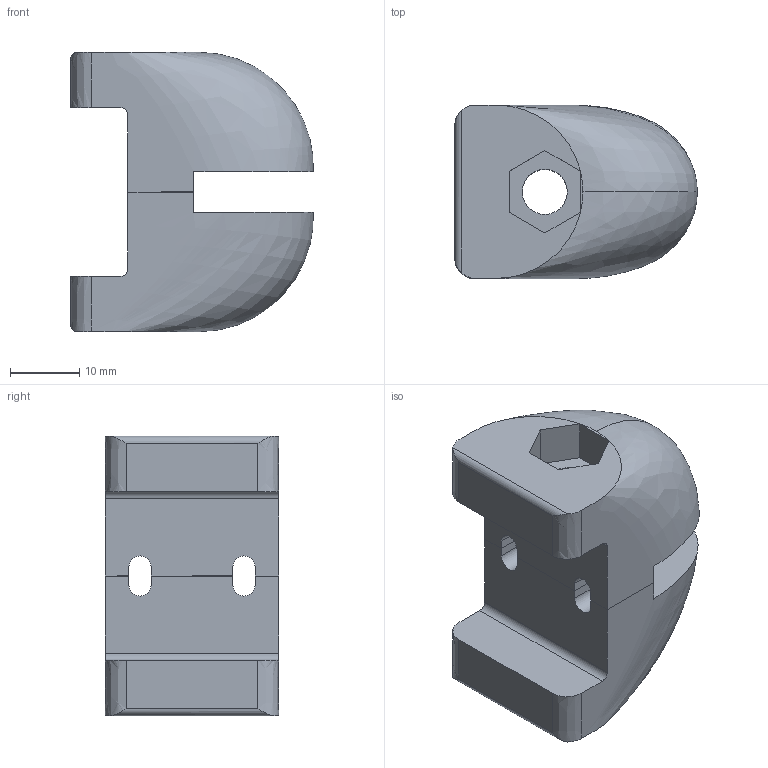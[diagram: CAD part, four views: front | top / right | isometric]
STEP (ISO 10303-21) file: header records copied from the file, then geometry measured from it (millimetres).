
FILE_DESCRIPTION (( 'STEP AP214' ), '1' );
FILE_NAME ('L19133B-L19133B.step', '2024-12-03T16:24:12', ( '' ), ( '' ), 'SwSTEP 2.0', 'SolidWorks 2023', '' );
FILE_SCHEMA (( 'AUTOMOTIVE_DESIGN' ));
Length unit declared in the file: millimetre
Products named in the file (2): L19133B-L19133B; L19133B
Assembly tree (2 placements, depth 2):
  L19133B-L19133B
    L19133B  x2
Bounding box: 35 x 25 x 40.3 mm (x, y, z)
Volume: 18896.9 mm3; surface area: 7132 mm2
Topology: 2 solids, 2 shells, 64 faces, 174 edges, 114 vertices
Faces by surface type: plane 46, cylinder 10, bspline 8
Full cylindrical faces by diameter (mm): 6.5 x2
Entity records: 1652 total; most frequent: CARTESIAN_POINT 808, ORIENTED_EDGE 170, DIRECTION 158, EDGE_CURVE 85, VERTEX_POINT 56, LINE 56, VECTOR 56, AXIS2_PLACEMENT_3D 51
